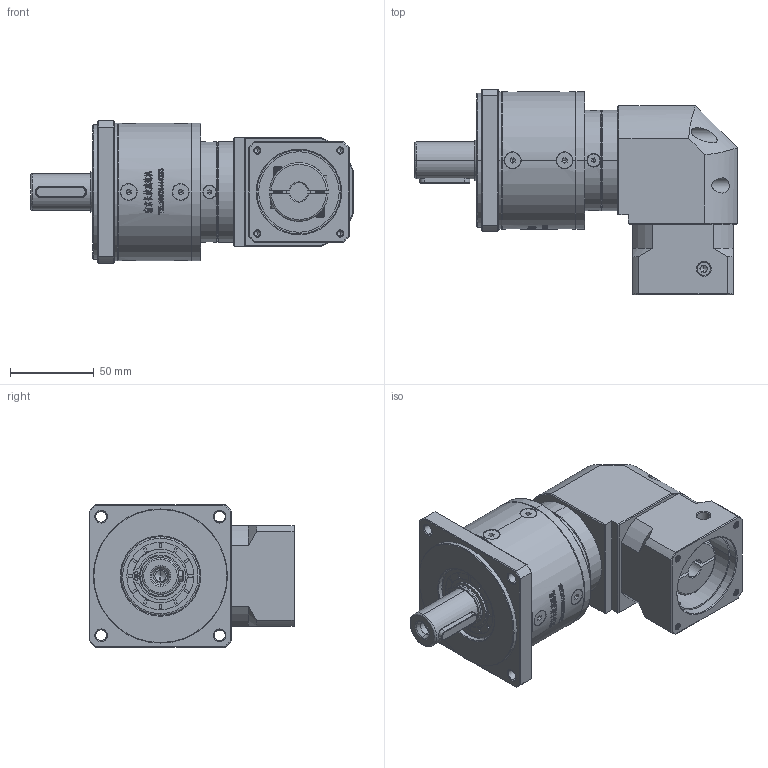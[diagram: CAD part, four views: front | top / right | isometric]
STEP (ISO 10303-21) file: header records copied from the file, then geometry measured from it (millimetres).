
FILE_DESCRIPTION (( 'STEP AP214' ), '1' );
FILE_NAME ('ZFR80-D22-L2-11-50-70-M4.step', '2022-05-08T14:52:59', ( '' ), ( 'Microsoft' ), 'SwSTEP 2.0', 'SolidWorks 2016', '' );
FILE_SCHEMA (( 'AUTOMOTIVE_DESIGN' ));
Length unit declared in the file: millimetre
Products named in the file (1): ZFR80-D22-L2-11-50-70-M4
Bounding box: 192.5 x 122.7 x 85 mm (x, y, z)
Volume: 787911.3 mm3; surface area: 102657.3 mm2
Topology: 17 solids, 18 shells, 3069 faces, 8183 edges, 5271 vertices
Faces by surface type: plane 1601, bspline 608, cylinder 460, cone 380, torus 20
Entity records: 163302 total; most frequent: CARTESIAN_POINT 58377, ORIENTED_EDGE 16274, DIRECTION 12410, EDGE_CURVE 8137, VERTEX_POINT 5271, VECTOR 4968, LINE 4968, AXIS2_PLACEMENT_3D 3721
